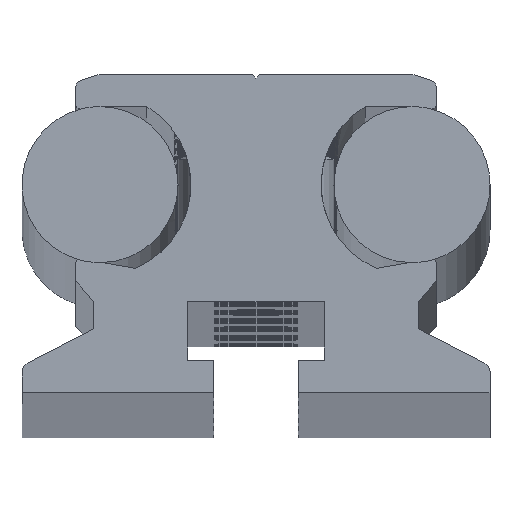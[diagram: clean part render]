
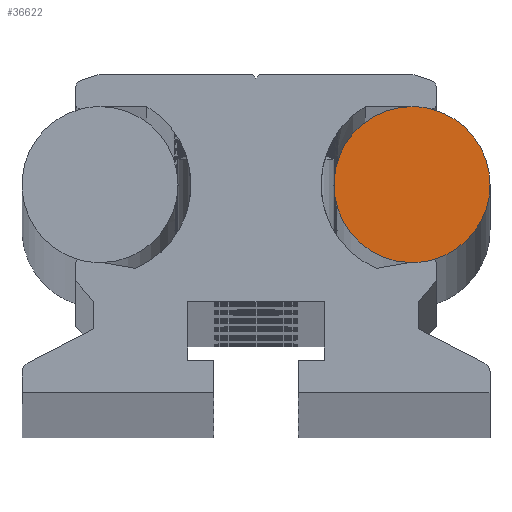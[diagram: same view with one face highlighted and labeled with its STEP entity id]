
A CAD part, top view. The second image highlights one B-rep face of the part: STEP entity #36622.
In plain terms, the highlighted planar face has unit normal (0, 0, 1).
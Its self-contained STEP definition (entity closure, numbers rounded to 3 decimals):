
#1195 = CARTESIAN_POINT ( 'NONE',  ( 12., 16., -0.5 ) ) ;
#1202 = PLANE ( 'NONE',  #8123 ) ;
#1205 = DIRECTION ( 'NONE',  ( 0., 0., 1. ) ) ;
#1206 = DIRECTION ( 'NONE',  ( 1., 0., 0. ) ) ;
#6204 = CARTESIAN_POINT ( 'NONE',  ( 13.516, 21.805, -0.5 ) ) ;
#8123 = AXIS2_PLACEMENT_3D ( 'NONE', #1195, #1205, #1206 ) ;
#9151 = FACE_OUTER_BOUND ( 'NONE', #32249, .T. ) ;
#12001 = CIRCLE ( 'NONE', #17621, 6. ) ;
#12658 = CARTESIAN_POINT ( 'NONE',  ( 12., 16., -0.5 ) ) ;
#12660 = DIRECTION ( 'NONE',  ( 0., 0., -1. ) ) ;
#12662 = DIRECTION ( 'NONE',  ( 1., 0., 0. ) ) ;
#17621 = AXIS2_PLACEMENT_3D ( 'NONE', #12658, #12660, #12662 ) ;
#18492 = CARTESIAN_POINT ( 'NONE',  ( 12., 16., -0.5 ) ) ;
#18506 = DIRECTION ( 'NONE',  ( 0., 0., 1. ) ) ;
#18509 = DIRECTION ( 'NONE',  ( 1., 0., 0. ) ) ;
#18522 = CARTESIAN_POINT ( 'NONE',  ( 12., 16., -0.5 ) ) ;
#18537 = DIRECTION ( 'NONE',  ( 0., 0., 1. ) ) ;
#18540 = DIRECTION ( 'NONE',  ( 1., 0., 0. ) ) ;
#22081 = CIRCLE ( 'NONE', #33648, 6. ) ;
#22084 = CIRCLE ( 'NONE', #33651, 6. ) ;
#22400 = CARTESIAN_POINT ( 'NONE',  ( 12., 16., -0.5 ) ) ;
#22404 = DIRECTION ( 'NONE',  ( 0., 0., 1. ) ) ;
#22405 = DIRECTION ( 'NONE',  ( 1., 0., 0. ) ) ;
#22448 = CARTESIAN_POINT ( 'NONE',  ( 12., 16., -0.5 ) ) ;
#22457 = DIRECTION ( 'NONE',  ( 0., 0., -1. ) ) ;
#22458 = DIRECTION ( 'NONE',  ( 1., 0., 0. ) ) ;
#23947 = VERTEX_POINT ( 'NONE', #25354 ) ;
#24035 = VERTEX_POINT ( 'NONE', #25401 ) ;
#24132 = VERTEX_POINT ( 'NONE', #25451 ) ;
#24138 = VERTEX_POINT ( 'NONE', #25454 ) ;
#25354 = CARTESIAN_POINT ( 'NONE',  ( 13.719, 10.251, -0.5 ) ) ;
#25401 = CARTESIAN_POINT ( 'NONE',  ( 18., 16., -0.5 ) ) ;
#25451 = CARTESIAN_POINT ( 'NONE',  ( 11.819, 10.003, -0.5 ) ) ;
#25454 = CARTESIAN_POINT ( 'NONE',  ( 12., 22., -0.5 ) ) ;
#27968 = EDGE_CURVE ( 'NONE', #24138, #24132, #29342, .T. ) ;
#28025 = EDGE_CURVE ( 'NONE', #37650, #24035, #29421, .T. ) ;
#29342 = CIRCLE ( 'NONE', #33518, 6. ) ;
#29361 = EDGE_CURVE ( 'NONE', #37650, #24138, #22081, .T. ) ;
#29374 = EDGE_CURVE ( 'NONE', #24132, #23947, #22084, .T. ) ;
#29421 = CIRCLE ( 'NONE', #33523, 6. ) ;
#31481 = ORIENTED_EDGE ( 'NONE', *, *, #29361, .T. ) ;
#31482 = ORIENTED_EDGE ( 'NONE', *, *, #27968, .T. ) ;
#31483 = ORIENTED_EDGE ( 'NONE', *, *, #29374, .T. ) ;
#31484 = ORIENTED_EDGE ( 'NONE', *, *, #32827, .F. ) ;
#31485 = ORIENTED_EDGE ( 'NONE', *, *, #28025, .F. ) ;
#32249 = EDGE_LOOP ( 'NONE', ( #31481, #31482, #31483, #31484, #31485 ) ) ;
#32827 = EDGE_CURVE ( 'NONE', #24035, #23947, #12001, .T. ) ;
#33518 = AXIS2_PLACEMENT_3D ( 'NONE', #22400, #22404, #22405 ) ;
#33523 = AXIS2_PLACEMENT_3D ( 'NONE', #22448, #22457, #22458 ) ;
#33648 = AXIS2_PLACEMENT_3D ( 'NONE', #18492, #18506, #18509 ) ;
#33651 = AXIS2_PLACEMENT_3D ( 'NONE', #18522, #18537, #18540 ) ;
#36622 = ADVANCED_FACE ( 'NONE', ( #9151 ), #1202, .T. ) ;
#37650 = VERTEX_POINT ( 'NONE', #6204 ) ;
